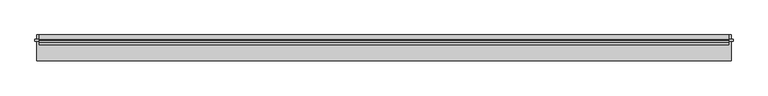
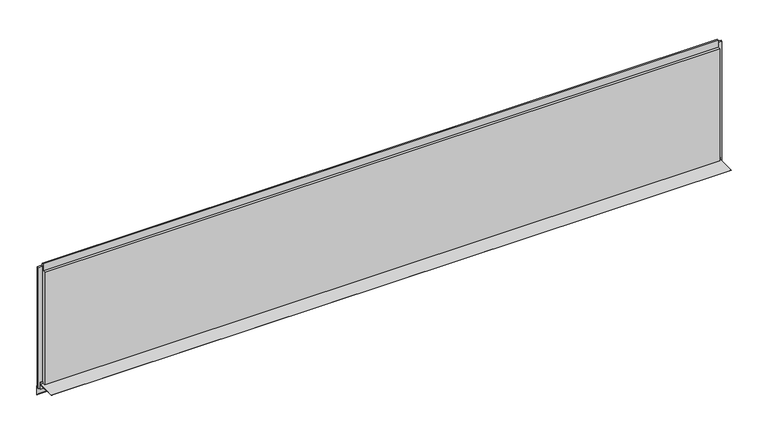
"""IFC4 building model written with IfcOpenShell, lengths in millimetres: plate geometry, Trimo_Qbiss Screen_Normal Panel-HORIZONTAL : HR - B."""

from ifc_helpers import new_model, si_unit, frame, origin, place, context, project, spatial, polyline, outline, extrude, source, transform, mapped, element, save


def plate_29d679cd(model_context):
    return source(origin(), model_context, "Body", "SweptSolid", [
        extrude(outline(polyline([(66.7, 14.0835797), (67.5, 14.0835797), (67.5, -23.0), (100.0, -25.8433816), (100.0, -76.0), (87.1509533, -63.1509533), (87.7166388, -62.5852679), (99.2, -74.0686292), (99.2, -26.5764465), (66.7, -23.7330649), (66.7, 1.0), (-32.5, 1.0), (-32.5, 1.8), (66.7, 1.8), (66.7, 14.0835797)])), frame((-1774.3307146, 0.0, 0.0), z_axis=(1.0, 0.0, 0.0), x_axis=(0.0, 1.0, 0.0)), (0.0, 0.0, 1.0), 3548.6614291),
        extrude(outline(polyline([(-1764.8307146, 76.5978162), (-1764.8307146, 67.8978162), (-1783.8307146, 67.8978162), (-1783.8307146, 76.5978162), (-1764.8307146, 76.5978162)])), frame((0.0, 0.0, -20.0), z_axis=(0.0, 0.0, 1.0), x_axis=(1.0, 0.0, 0.0)), (0.0, 0.0, 1.0), 669.0),
        extrude(outline(polyline([(1764.8307146, 67.8978162), (1764.8307146, 76.5978162), (1783.8307146, 76.5978162), (1783.8307146, 67.8978162), (1764.8307146, 67.8978162)])), frame((0.0, 0.0, -20.0), z_axis=(0.0, 0.0, 1.0), x_axis=(1.0, 0.0, 0.0)), (0.0, 0.0, 1.0), 669.0),
        extrude(outline(polyline([(1761.8307146, 76.0), (1761.8307146, 71.0), (-1761.8307146, 71.0), (-1761.8307146, 76.0), (1761.8307146, 76.0)])), frame((0.0, 0.0, 628.0), z_axis=(0.0, 0.0, 1.0), x_axis=(1.0, 0.0, 0.0)), (0.0, 0.0, 1.0), 21.0),
        extrude(outline(polyline([(71.0, 627.0), (100.0, 627.0), (100.0, 0.0), (72.0, 0.0), (72.0, 15.5), (62.0, 15.5), (62.0, 7.0), (50.0, 7.0), (50.0, 627.0), (63.0, 627.0), (63.0, 664.5), (71.0, 664.5), (71.0, 627.0)])), frame((-1761.8307146, 0.0, 0.0), z_axis=(1.0, 0.0, 0.0), x_axis=(0.0, 1.0, 0.0)), (0.0, 0.0, 1.0), 3523.6614291),
    ])


if __name__ == "__main__":
    model = new_model("IFC4")
    model_context = context("Model", 3, world=origin())
    ifc_project = project(units=[si_unit("LENGTHUNIT", "METRE", prefix="MILLI")], contexts=[model_context])
    site = spatial("IfcSite", under=ifc_project)
    building = spatial("IfcBuilding", under=site)
    placement = place(None, origin())
    plate_shape = plate_29d679cd(model_context)
    element("IfcPlate", 1, ObjectType="Trimo_Qbiss Screen_Normal Panel-HORIZONTAL : HR - B", at=placement, inside=building, context=model_context, shape_type="MappedRepresentation", body=[
        mapped(plate_shape, transform((0.0, 0.0, 0.0), x_axis=(1.0, 0.0, 0.0), y_axis=(0.0, 1.0, 0.0), z_axis=(0.0, 0.0, 1.0))),
    ])
    save(model, "model.ifc")
